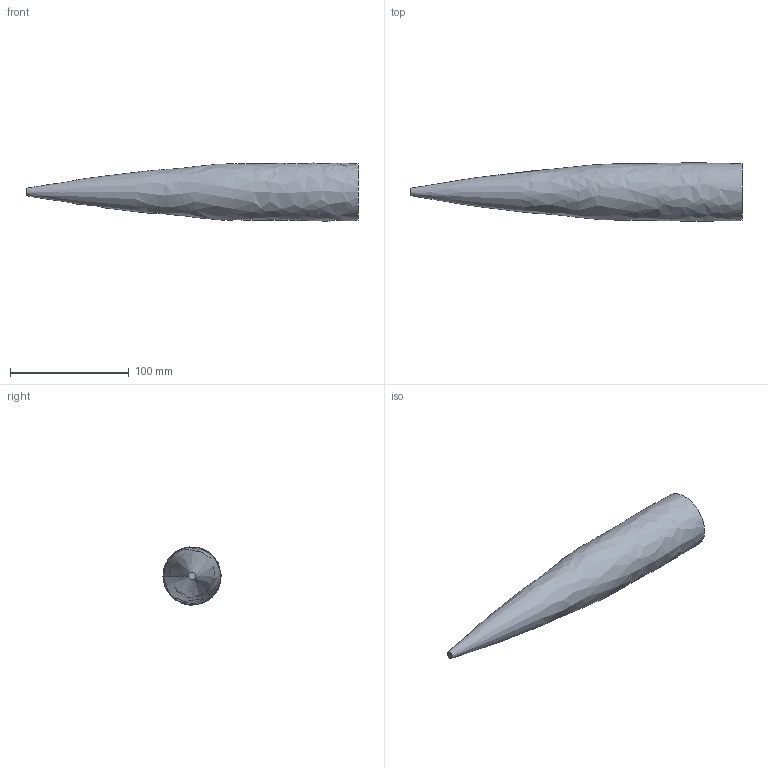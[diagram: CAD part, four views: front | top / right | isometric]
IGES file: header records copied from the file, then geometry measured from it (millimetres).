
Global section: file name: No Iges File Name specified; native system: AutoDesk Inventor R6.1; preprocessor: AutoDesk Inventor Iges Exporter R6.1; author: No Author specified; organization: No Organization specified; date: 20050823.145021; units: millimetre
Bounding box: 280 x 49.19 x 48.97 mm (x, y, z)
Surface area: 34620.4 mm2 (no closed solid volume)
Topology: 0 solids, 0 shells, 3 faces, 6 edges, 4 vertices
Faces by surface type: plane 2, bspline 1
